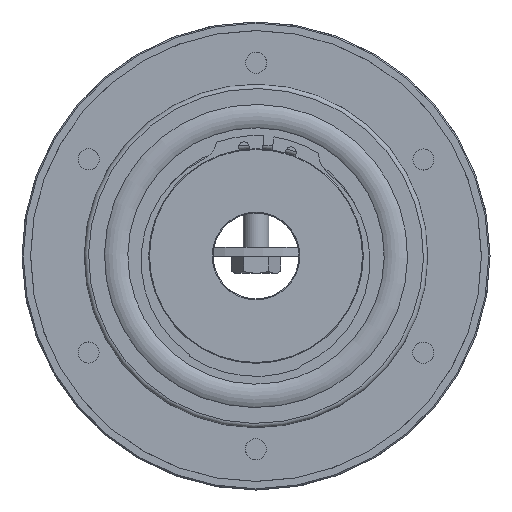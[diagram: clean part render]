
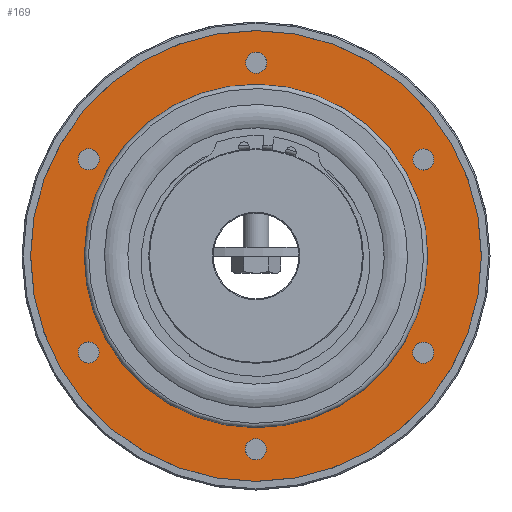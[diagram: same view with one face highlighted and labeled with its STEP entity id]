
A CAD part, left-side view. The second image highlights one B-rep face of the part: STEP entity #169.
In plain terms, the highlighted planar face has unit normal (-1, 0, 0).
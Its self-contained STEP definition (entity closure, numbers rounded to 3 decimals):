
#169 = ADVANCED_FACE( '', ( #292, #293, #294, #295, #296, #297, #298, #299 ), #300, .F. );
#292 = FACE_OUTER_BOUND( '', #434, .T. );
#293 = FACE_BOUND( '', #435, .T. );
#294 = FACE_BOUND( '', #436, .T. );
#295 = FACE_BOUND( '', #437, .T. );
#296 = FACE_BOUND( '', #438, .T. );
#297 = FACE_BOUND( '', #439, .T. );
#298 = FACE_BOUND( '', #440, .T. );
#299 = FACE_BOUND( '', #441, .T. );
#300 = PLANE( '', #442 );
#434 = EDGE_LOOP( '', ( #743 ) );
#435 = EDGE_LOOP( '', ( #744 ) );
#436 = EDGE_LOOP( '', ( #745 ) );
#437 = EDGE_LOOP( '', ( #746 ) );
#438 = EDGE_LOOP( '', ( #747 ) );
#439 = EDGE_LOOP( '', ( #748 ) );
#440 = EDGE_LOOP( '', ( #749 ) );
#441 = EDGE_LOOP( '', ( #750 ) );
#442 = AXIS2_PLACEMENT_3D( '', #751, #752, #753 );
#743 = ORIENTED_EDGE( '', *, *, #1230, .T. );
#744 = ORIENTED_EDGE( '', *, *, #1245, .T. );
#745 = ORIENTED_EDGE( '', *, *, #1243, .T. );
#746 = ORIENTED_EDGE( '', *, *, #1249, .T. );
#747 = ORIENTED_EDGE( '', *, *, #1240, .T. );
#748 = ORIENTED_EDGE( '', *, *, #1237, .T. );
#749 = ORIENTED_EDGE( '', *, *, #1232, .T. );
#750 = ORIENTED_EDGE( '', *, *, #1250, .F. );
#751 = CARTESIAN_POINT( '', ( -20.45, 52.5, 0. ) );
#752 = DIRECTION( '', ( 1., 0., 0. ) );
#753 = DIRECTION( '', ( 0., 1., 0. ) );
#1230 = EDGE_CURVE( '', #1720, #1720, #1721, .T. );
#1232 = EDGE_CURVE( '', #1723, #1723, #1724, .T. );
#1237 = EDGE_CURVE( '', #1731, #1731, #1732, .T. );
#1240 = EDGE_CURVE( '', #1736, #1736, #1737, .T. );
#1243 = EDGE_CURVE( '', #1740, #1740, #1741, .T. );
#1245 = EDGE_CURVE( '', #1743, #1743, #1744, .T. );
#1249 = EDGE_CURVE( '', #1748, #1748, #1749, .T. );
#1250 = EDGE_CURVE( '', #1750, #1750, #1751, .T. );
#1720 = VERTEX_POINT( '', #2748 );
#1721 = CIRCLE( '', #2749, 52.5 );
#1723 = VERTEX_POINT( '', #2751 );
#1724 = CIRCLE( '', #2752, 2.459 );
#1731 = VERTEX_POINT( '', #2759 );
#1732 = CIRCLE( '', #2760, 2.459 );
#1736 = VERTEX_POINT( '', #2764 );
#1737 = CIRCLE( '', #2765, 2.459 );
#1740 = VERTEX_POINT( '', #2768 );
#1741 = CIRCLE( '', #2769, 2.459 );
#1743 = VERTEX_POINT( '', #2771 );
#1744 = CIRCLE( '', #2772, 2.459 );
#1748 = VERTEX_POINT( '', #2776 );
#1749 = CIRCLE( '', #2777, 2.459 );
#1750 = VERTEX_POINT( '', #2778 );
#1751 = CIRCLE( '', #2779, 40. );
#2748 = CARTESIAN_POINT( '', ( -20.45, 0., 52.5 ) );
#2749 = AXIS2_PLACEMENT_3D( '', #3050, #3051, #3052 );
#2751 = CARTESIAN_POINT( '', ( -20.45, 0., 47.459 ) );
#2752 = AXIS2_PLACEMENT_3D( '', #3053, #3054, #3055 );
#2759 = CARTESIAN_POINT( '', ( -20.45, -41.1, 23.729 ) );
#2760 = AXIS2_PLACEMENT_3D( '', #3062, #3063, #3064 );
#2764 = CARTESIAN_POINT( '', ( -20.45, -41.1, -23.729 ) );
#2765 = AXIS2_PLACEMENT_3D( '', #3068, #3069, #3070 );
#2768 = CARTESIAN_POINT( '', ( -20.45, 41.1, -23.729 ) );
#2769 = AXIS2_PLACEMENT_3D( '', #3071, #3072, #3073 );
#2771 = CARTESIAN_POINT( '', ( -20.45, 41.1, 23.729 ) );
#2772 = AXIS2_PLACEMENT_3D( '', #3074, #3075, #3076 );
#2776 = CARTESIAN_POINT( '', ( -20.45, 0., -47.459 ) );
#2777 = AXIS2_PLACEMENT_3D( '', #3077, #3078, #3079 );
#2778 = CARTESIAN_POINT( '', ( -20.45, 0., 40. ) );
#2779 = AXIS2_PLACEMENT_3D( '', #3080, #3081, #3082 );
#3050 = CARTESIAN_POINT( '', ( -20.45, 0., 0. ) );
#3051 = DIRECTION( '', ( -1., 0., 0. ) );
#3052 = DIRECTION( '', ( 0., 0., 1. ) );
#3053 = CARTESIAN_POINT( '', ( -20.45, 0., 45. ) );
#3054 = DIRECTION( '', ( 1., 0., 0. ) );
#3055 = DIRECTION( '', ( 0., 0., 1. ) );
#3062 = CARTESIAN_POINT( '', ( -20.45, -38.971, 22.5 ) );
#3063 = DIRECTION( '', ( 1., 0., 0. ) );
#3064 = DIRECTION( '', ( 0., -0.866, 0.5 ) );
#3068 = CARTESIAN_POINT( '', ( -20.45, -38.971, -22.5 ) );
#3069 = DIRECTION( '', ( 1., 0., 0. ) );
#3070 = DIRECTION( '', ( 0., -0.866, -0.5 ) );
#3071 = CARTESIAN_POINT( '', ( -20.45, 38.971, -22.5 ) );
#3072 = DIRECTION( '', ( 1., 0., 0. ) );
#3073 = DIRECTION( '', ( 0., 0.866, -0.5 ) );
#3074 = CARTESIAN_POINT( '', ( -20.45, 38.971, 22.5 ) );
#3075 = DIRECTION( '', ( 1., 0., 0. ) );
#3076 = DIRECTION( '', ( 0., 0.866, 0.5 ) );
#3077 = CARTESIAN_POINT( '', ( -20.45, 0., -45. ) );
#3078 = DIRECTION( '', ( 1., 0., 0. ) );
#3079 = DIRECTION( '', ( 0., 0., -1. ) );
#3080 = CARTESIAN_POINT( '', ( -20.45, 0., 0. ) );
#3081 = DIRECTION( '', ( -1., 0., 0. ) );
#3082 = DIRECTION( '', ( 0., 0., 1. ) );
